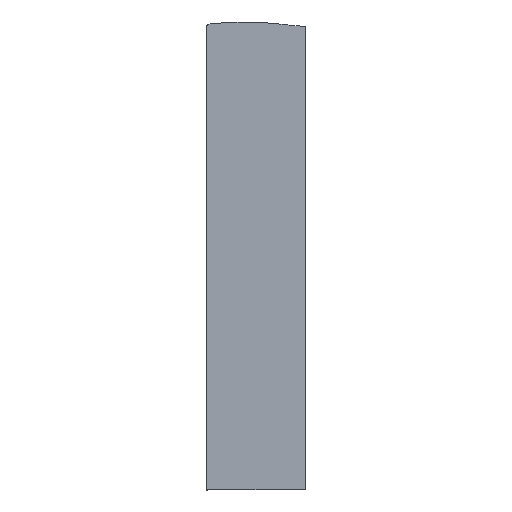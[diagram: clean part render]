
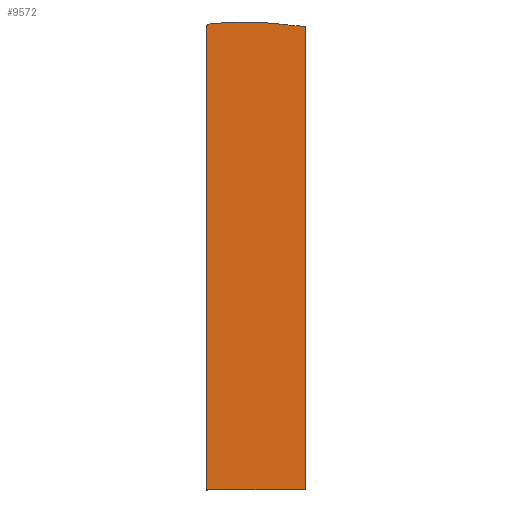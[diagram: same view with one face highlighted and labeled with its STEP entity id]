
A CAD part, top view. The second image highlights one B-rep face of the part: STEP entity #9572.
In plain terms, the highlighted planar face has unit normal (0, 0, 1).
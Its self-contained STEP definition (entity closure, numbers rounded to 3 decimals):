
#27=CIRCLE('',#9903,466.5);
#28=CIRCLE('',#9906,2.);
#29=CIRCLE('',#9907,228.956);
#832=FACE_OUTER_BOUND('',#1423,.T.);
#1423=EDGE_LOOP('',(#8640,#8641,#8642,#8643,#8644,#8645,#8646,#8647));
#2771=LINE('',#17839,#3680);
#2772=LINE('',#17841,#3681);
#2773=LINE('',#17843,#3682);
#2774=LINE('',#17844,#3683);
#2775=LINE('',#17847,#3684);
#3680=VECTOR('',#11409,10.);
#3681=VECTOR('',#11410,10.);
#3682=VECTOR('',#11411,10.);
#3683=VECTOR('',#11412,10.);
#3684=VECTOR('',#11415,10.);
#4597=VERTEX_POINT('',#17828);
#4598=VERTEX_POINT('',#17830);
#4599=VERTEX_POINT('',#17835);
#4600=VERTEX_POINT('',#17836);
#4601=VERTEX_POINT('',#17838);
#4602=VERTEX_POINT('',#17840);
#4603=VERTEX_POINT('',#17842);
#4604=VERTEX_POINT('',#17845);
#5951=EDGE_CURVE('',#4598,#4597,#27,.T.);
#5953=EDGE_CURVE('',#4599,#4600,#28,.T.);
#5954=EDGE_CURVE('',#4600,#4601,#2771,.T.);
#5955=EDGE_CURVE('',#4601,#4602,#2772,.T.);
#5956=EDGE_CURVE('',#4602,#4603,#2773,.T.);
#5957=EDGE_CURVE('',#4603,#4598,#2774,.T.);
#5958=EDGE_CURVE('',#4597,#4604,#29,.T.);
#5959=EDGE_CURVE('',#4604,#4599,#2775,.T.);
#8640=ORIENTED_EDGE('',*,*,#5953,.T.);
#8641=ORIENTED_EDGE('',*,*,#5954,.T.);
#8642=ORIENTED_EDGE('',*,*,#5955,.T.);
#8643=ORIENTED_EDGE('',*,*,#5956,.T.);
#8644=ORIENTED_EDGE('',*,*,#5957,.T.);
#8645=ORIENTED_EDGE('',*,*,#5951,.T.);
#8646=ORIENTED_EDGE('',*,*,#5958,.T.);
#8647=ORIENTED_EDGE('',*,*,#5959,.T.);
#8998=PLANE('',#9905);
#9572=ADVANCED_FACE('',(#832),#8998,.T.);
#9903=AXIS2_PLACEMENT_3D('',#17831,#11400,#11401);
#9905=AXIS2_PLACEMENT_3D('',#17834,#11405,#11406);
#9906=AXIS2_PLACEMENT_3D('',#17837,#11407,#11408);
#9907=AXIS2_PLACEMENT_3D('',#17846,#11413,#11414);
#11400=DIRECTION('center_axis',(0.,0.,-1.));
#11401=DIRECTION('ref_axis',(0.118,0.993,0.));
#11405=DIRECTION('center_axis',(0.,0.,1.));
#11406=DIRECTION('ref_axis',(1.,0.,0.));
#11407=DIRECTION('center_axis',(0.,0.,1.));
#11408=DIRECTION('ref_axis',(-0.087,0.996,0.));
#11409=DIRECTION('',(0.,-1.,0.));
#11410=DIRECTION('',(1.,0.,0.));
#11411=DIRECTION('',(0.,1.,0.));
#11412=DIRECTION('',(-0.996,0.087,0.));
#11413=DIRECTION('center_axis',(0.,0.,1.));
#11414=DIRECTION('ref_axis',(0.118,0.993,0.));
#11415=DIRECTION('',(-0.996,-0.087,0.));
#17828=CARTESIAN_POINT('',(18.323,378.118,2.));
#17830=CARTESIAN_POINT('',(32.587,376.649,2.));
#17831=CARTESIAN_POINT('Origin',(73.245,841.373,2.));
#17834=CARTESIAN_POINT('Origin',(-38.,376.008,2.));
#17835=CARTESIAN_POINT('',(-38.174,378.,2.));
#17836=CARTESIAN_POINT('',(-40.,376.008,2.));
#17837=CARTESIAN_POINT('Origin',(-38.,376.008,2.));
#17838=CARTESIAN_POINT('',(-40.,0.,2.));
#17839=CARTESIAN_POINT('',(-40.,376.008,2.));
#17840=CARTESIAN_POINT('',(40.,0.,2.));
#17841=CARTESIAN_POINT('',(-40.,0.,2.));
#17842=CARTESIAN_POINT('',(40.,376.,2.));
#17843=CARTESIAN_POINT('',(40.,0.,2.));
#17844=CARTESIAN_POINT('',(40.,376.,2.));
#17845=CARTESIAN_POINT('',(-28.587,378.839,2.));
#17846=CARTESIAN_POINT('Origin',(-8.632,150.754,2.));
#17847=CARTESIAN_POINT('',(-28.587,378.839,2.));
